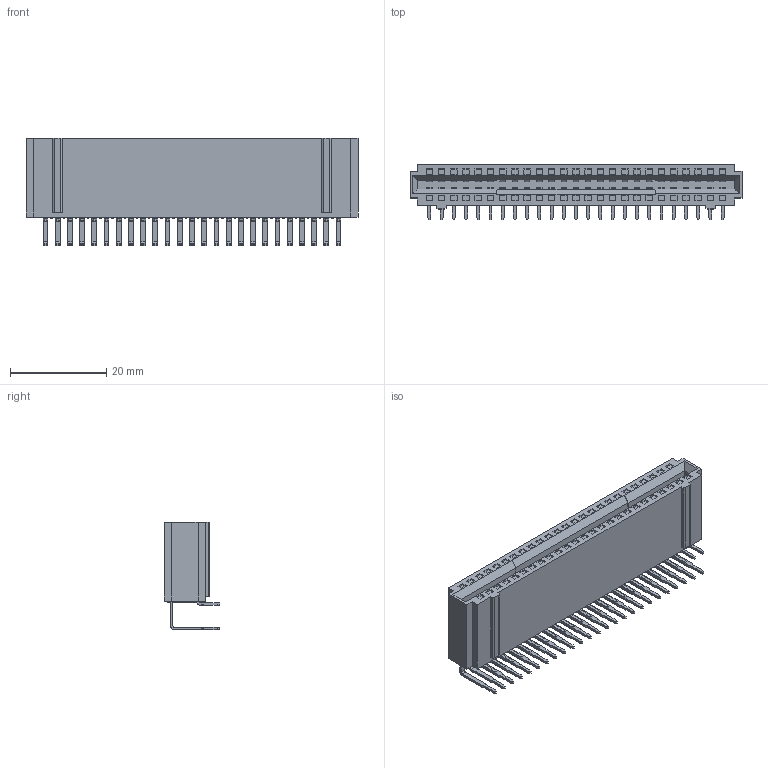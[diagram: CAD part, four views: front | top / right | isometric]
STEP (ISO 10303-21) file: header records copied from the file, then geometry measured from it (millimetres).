
FILE_DESCRIPTION (( 'STEP AP203' ), '1' );
FILE_NAME ('9393-F4P50N51A1CB30DA.STEP', '2019-04-02T03:00:16', ( '' ), ( '' ), 'SwSTEP 2.0', 'SolidWorks 2011', '' );
FILE_SCHEMA (( 'CONFIG_CONTROL_DESIGN' ));
Length unit declared in the file: millimetre
Products named in the file (1): 9393-F4P50N51A1CB30DA
Bounding box: 69.04 x 11.49 x 22.38 mm (x, y, z)
Volume: 8407 mm3; surface area: 6624.3 mm2
Topology: 1 solids, 1 shells, 1776 faces, 4666 edges, 3076 vertices
Faces by surface type: plane 1219, cylinder 557
Entity records: 54489 total; most frequent: CARTESIAN_POINT 9819, ORIENTED_EDGE 9332, DIRECTION 9134, EDGE_CURVE 4666, LINE 3552, VECTOR 3552, VERTEX_POINT 3076, AXIS2_PLACEMENT_3D 2791
